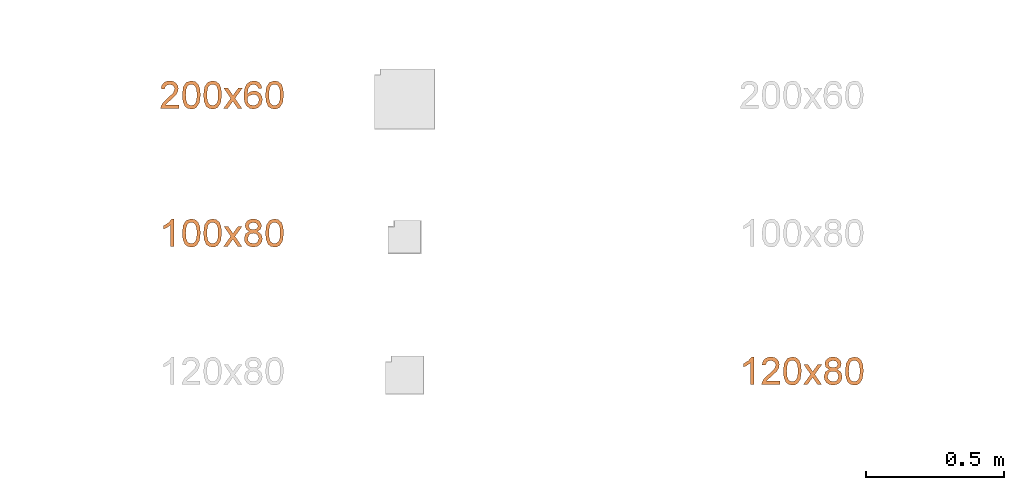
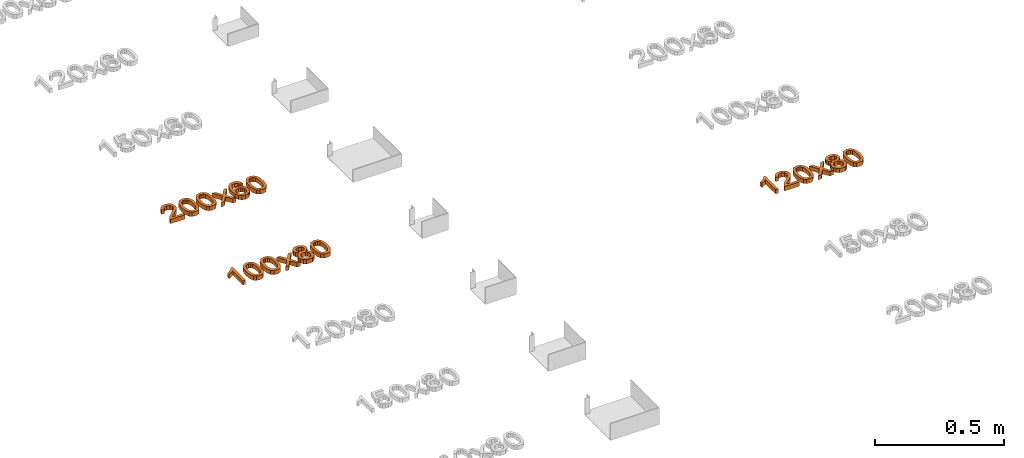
# One storey, part 42 of 71: 3 proxies.
"""IFC2X3 building model written with IfcOpenShell, lengths in millimetres."""

from ifc_helpers import new_model, entity, si_unit, converted_unit, derived_unit, direction, frame, origin, place, context, subcontext, project, spatial, polyline, outline, extrude, element, save


model = new_model("IFC2X3")

# Units and contexts
model_context = context("Model", 3, precision=0.01, world=origin(), true_north=direction((6.12303176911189e-17, 1.0)))
body_context = subcontext(model_context, "Body", "Model", "MODEL_VIEW")
ifc_project = project(units=[si_unit("LENGTHUNIT", "METRE", prefix="MILLI"), si_unit("AREAUNIT", "SQUARE_METRE"), si_unit("VOLUMEUNIT", "CUBIC_METRE"), converted_unit("PLANEANGLEUNIT", "DEGREE", entity("IfcRatioMeasure", 0.0174532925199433), si_unit("PLANEANGLEUNIT", "RADIAN"), dimensions=[0, 0, 0, 0, 0, 0, 0]), si_unit("MASSUNIT", "GRAM", prefix="KILO"), derived_unit("MASSDENSITYUNIT", [(si_unit("MASSUNIT", "GRAM", prefix="KILO"), 1), (si_unit("LENGTHUNIT", "METRE"), -3)]), si_unit("TIMEUNIT", "SECOND"), si_unit("FREQUENCYUNIT", "HERTZ"), si_unit("THERMODYNAMICTEMPERATUREUNIT", "DEGREE_CELSIUS"), derived_unit("THERMALTRANSMITTANCEUNIT", [(si_unit("MASSUNIT", "GRAM", prefix="KILO"), 1), (si_unit("THERMODYNAMICTEMPERATUREUNIT", "KELVIN"), -1), (si_unit("TIMEUNIT", "SECOND"), -3)]), derived_unit("VOLUMETRICFLOWRATEUNIT", [(si_unit("LENGTHUNIT", "METRE"), 3), (si_unit("TIMEUNIT", "SECOND"), -1)]), si_unit("ELECTRICCURRENTUNIT", "AMPERE"), si_unit("ELECTRICVOLTAGEUNIT", "VOLT"), si_unit("POWERUNIT", "WATT"), si_unit("FORCEUNIT", "NEWTON", prefix="KILO"), si_unit("ILLUMINANCEUNIT", "LUX"), si_unit("LUMINOUSFLUXUNIT", "LUMEN"), si_unit("LUMINOUSINTENSITYUNIT", "CANDELA"), derived_unit("USERDEFINED", [(si_unit("MASSUNIT", "GRAM", prefix="KILO"), -1), (si_unit("LENGTHUNIT", "METRE"), -2), (si_unit("TIMEUNIT", "SECOND"), 3), (si_unit("LUMINOUSFLUXUNIT", "LUMEN"), 1)]), derived_unit("LINEARVELOCITYUNIT", [(si_unit("LENGTHUNIT", "METRE"), 1), (si_unit("TIMEUNIT", "SECOND"), -1)]), si_unit("PRESSUREUNIT", "PASCAL"), derived_unit("USERDEFINED", [(si_unit("LENGTHUNIT", "METRE"), -2), (si_unit("MASSUNIT", "GRAM", prefix="KILO"), 1), (si_unit("TIMEUNIT", "SECOND"), -2)])], contexts=[model_context])

# Site, building, storey
site_placement = place(None, origin())
site = spatial("IfcSite", under=ifc_project, at=site_placement, Name="Default", CompositionType="ELEMENT")
building_placement = place(site_placement, origin())
building = spatial("IfcBuilding", under=site, at=building_placement, Name="Наименование здания", CompositionType="ELEMENT")
storey_placement = place(building_placement, origin())
storey = spatial("IfcBuildingStorey", under=building, at=storey_placement, Name="Этаж 01", CompositionType="ELEMENT", Elevation=0.0)

# Proxies
proxy_1_placement = place(storey_placement, origin())
element("IfcBuildingElementProxy", 1, at=proxy_1_placement, inside=storey, Name="Текст модели:100 мм Arial", ObjectType="Текст модели:100 мм Arial", context=body_context, shape_type="SweptSolid", body=[
    extrude(outline(polyline([(-32.3858783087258, -45.1669477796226), (-32.3858783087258, -57.7239865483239), (33.5385752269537, -57.7239865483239), (32.1896745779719, -49.0664969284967), (24.5622545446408, -35.7369059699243), (8.84143061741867, -21.1810416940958), (-12.8390816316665, -0.260818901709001), (-18.2592096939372, 13.9639515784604), (-13.1456499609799, 25.4786580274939), (0.208466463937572, 30.1752848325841), (14.126668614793, 25.5890226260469), (19.4119066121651, 12.90935652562), (31.9689453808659, 14.4789863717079), (28.9247218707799, 26.6252235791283), (22.3426998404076, 35.4973110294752), (12.5662358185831, 40.9235704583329), (-0.0613136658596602, 42.7323236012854), (-12.7808336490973, 40.7212353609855), (-22.5389035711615, 34.6879706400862), (-28.7469122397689, 25.6748617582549), (-30.8162484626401, 14.724241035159), (-28.5844310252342, 2.81712712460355), (-21.1654774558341, -9.49465698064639), (-3.1760478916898, -26.6992716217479), (11.2694517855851, -38.7780637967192), (16.9348345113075, -45.1669477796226), (-32.3858783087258, -45.1669477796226)])), frame((12952.4125507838, -2405.61126925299, 0.0), z_axis=(0.0, 0.0, -1.0), x_axis=(-1.0, 0.0, 0.0)), (0.0, 0.0, -1.0), 20.0),
    extrude(outline(polyline([(-7.02884310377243, -33.3490673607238), (17.532380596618, -33.3490673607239), (35.1984171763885, -27.6137612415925), (43.3439841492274, -18.4876517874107), (47.0516941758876, -5.75150665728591), (46.7162020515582, 4.48638208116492), (43.4465778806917, 13.0955287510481), (27.9444305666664, 25.665911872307), (-0.314338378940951, 32.2325535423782), (-24.0296505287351, 32.3678288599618), (-39.4143020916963, 28.0260881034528), (-49.7293680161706, 18.9002174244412), (-54.4436715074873, 4.63998875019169), (-50.867658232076, -14.1301059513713), (-35.4058547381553, -26.7333390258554), (-7.02884310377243, -33.3490673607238)]), holes=[polyline([(-5.77428774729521, -20.8548320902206), (-25.0157644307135, -17.3562860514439), (-36.7257089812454, -11.5717922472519), (-41.0962588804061, -4.77599682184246), (-41.9669219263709, 3.2146479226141), (-39.2244253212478, 11.2791292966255), (-32.865406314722, 17.2229259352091), (-20.969837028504, 20.2947501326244), (-1.61768958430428, 19.7433141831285), (17.8514140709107, 16.2707701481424), (28.7803640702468, 10.714159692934), (33.5546988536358, 3.61815959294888), (34.5599568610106, -4.47255337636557), (31.9421230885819, -12.1923199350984), (25.8471825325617, -18.1754808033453), (14.0250679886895, -21.402747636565), (-5.77428774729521, -20.8548320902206)])]), frame((13031.2470054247, -2417.51207886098, 0.0), z_axis=(0.0, 0.0, 1.0), x_axis=(0.1018515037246, -0.994799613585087, 0.0)), (0.0, 0.0, 1.0), 20.0),
    extrude(outline(polyline([(-7.02884310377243, -33.3490673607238), (17.532380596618, -33.3490673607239), (35.1984171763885, -27.6137612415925), (43.3439841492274, -18.4876517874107), (47.0516941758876, -5.75150665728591), (46.7162020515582, 4.48638208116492), (43.4465778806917, 13.0955287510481), (27.9444305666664, 25.665911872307), (-0.314338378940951, 32.2325535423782), (-24.0296505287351, 32.3678288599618), (-39.4143020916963, 28.0260881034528), (-49.7293680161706, 18.9002174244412), (-54.4436715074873, 4.63998875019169), (-50.867658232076, -14.1301059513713), (-35.4058547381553, -26.7333390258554), (-7.02884310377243, -33.3490673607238)]), holes=[polyline([(-5.77428774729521, -20.8548320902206), (-25.0157644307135, -17.3562860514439), (-36.7257089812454, -11.5717922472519), (-41.0962588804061, -4.77599682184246), (-41.9669219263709, 3.2146479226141), (-39.2244253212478, 11.2791292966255), (-32.865406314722, 17.2229259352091), (-20.969837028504, 20.2947501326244), (-1.61768958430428, 19.7433141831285), (17.8514140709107, 16.2707701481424), (28.7803640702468, 10.714159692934), (33.5546988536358, 3.61815959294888), (34.5599568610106, -4.47255337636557), (31.9421230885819, -12.1923199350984), (25.8471825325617, -18.1754808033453), (14.0250679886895, -21.402747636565), (-5.77428774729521, -20.8548320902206)])]), frame((13108.158867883, -2417.51207886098, 0.0), z_axis=(0.0, 0.0, 1.0), x_axis=(0.1018515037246, -0.994799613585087, 0.0)), (0.0, 0.0, 1.0), 20.0),
    extrude(outline(polyline([(-34.5302215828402, -38.4265006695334), (-19.4225343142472, -38.4265006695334), (-0.341721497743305, -12.0616243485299), (2.478707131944, -16.1328517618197), (17.8561745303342, -38.4265006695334), (32.9638617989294, -38.4265006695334), (7.40832586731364, -1.34399555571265), (33.9448804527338, 35.3461020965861), (18.8371931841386, 35.3461020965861), (4.95577923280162, 16.1671874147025), (0.0261604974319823, 9.34910777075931), (-5.66374769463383, 17.6877663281), (-17.8529044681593, 35.3461020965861), (-32.9605917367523, 35.3461020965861), (-7.69936140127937, -1.34399555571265), (-34.5302215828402, -38.4265006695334)])), frame((13181.0005248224, -2424.90875513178, 0.0)), (0.0, 0.0, 1.0), 20.0),
    extrude(outline(polyline([(6.79275401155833, -32.5027761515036), (18.3659045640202, -32.5027761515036), (28.1525204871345, -28.8011371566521), (35.6312934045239, -21.7178704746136), (40.280914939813, -11.5729874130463), (41.4130789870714, 3.23667074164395), (36.1391243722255, 16.3729018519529), (21.8599739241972, 28.8803269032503), (-1.50836821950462, 38.2054593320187), (-23.6059131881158, 41.7609274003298), (-39.9814227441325, 38.5965283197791), (-51.1650797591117, 29.9216784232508), (-57.687067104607, 16.9457940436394), (-57.9805556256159, -0.04948790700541), (-49.2081886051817, -14.3141019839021), (-33.6167855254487, -22.9350568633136), (-20.6265742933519, -24.2502330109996), (-8.97800352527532, -20.6254922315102), (0.0919027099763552, -13.0350962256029), (5.34612034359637, -2.45330669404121), (5.85483161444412, 11.6447254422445), (-0.84333979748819, 24.9910631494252), (19.7707676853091, 15.5765036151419), (28.4840991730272, 4.26766164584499), (28.3893512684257, -7.46374532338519), (19.9956250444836, -18.1936336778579), (8.63303585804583, -19.9825396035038), (6.79275401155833, -32.5027761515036)]), holes=[polyline([(-18.758671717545, 29.9549594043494), (-11.6328110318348, 26.3613362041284), (-6.94154076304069, 20.2038317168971), (-5.85783236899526, 4.13761066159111), (-9.48331864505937, -3.95286412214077), (-15.1077394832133, -9.26901644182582), (-22.3091633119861, -11.5969098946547), (-30.6656585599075, -10.7226080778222), (-38.6094491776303, -7.06141592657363), (-43.8637090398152, -1.22509865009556), (-46.1835287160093, 6.17768396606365), (-45.32399877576, 14.538272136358), (-39.6901171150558, 24.722197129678), (-30.0168134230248, 30.0585493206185), (-18.758671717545, 29.9549594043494)])]), frame((13256.6584546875, -2404.78751753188, 0.0), z_axis=(0.0, 0.0, 1.0), x_axis=(-0.267015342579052, 0.963692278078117, 0.0)), (0.0, 0.0, 1.0), 20.0),
    extrude(outline(polyline([(-7.02884310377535, -33.3490673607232), (17.5323805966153, -33.3490673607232), (35.1984171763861, -27.6137612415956), (43.3439841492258, -18.4876517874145), (47.0516941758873, -5.75150665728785), (46.7162020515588, 4.486382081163), (43.446577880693, 13.0955287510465), (27.9444305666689, 25.6659118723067), (-0.314338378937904, 32.2325535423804), (-24.0296505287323, 32.3678288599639), (-39.4143020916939, 28.0260881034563), (-49.729368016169, 18.9002174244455), (-54.4436715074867, 4.63998875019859), (-50.8676582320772, -14.1301059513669), (-35.4058547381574, -26.7333390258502), (-7.02884310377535, -33.3490673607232)]), holes=[polyline([(-5.77428774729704, -20.8548320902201), (-25.0157644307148, -17.3562860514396), (-36.7257089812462, -11.5717922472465), (-41.0962588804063, -4.77599682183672), (-41.9669219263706, 3.21464792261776), (-39.2244253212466, 11.2791292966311), (-32.8654063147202, 17.2229259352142), (-20.9698370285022, 20.2947501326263), (-1.61768958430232, 19.7433141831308), (17.8514140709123, 16.270770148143), (28.7803640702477, 10.7141596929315), (33.5546988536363, 3.61815959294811), (34.5599568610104, -4.47255337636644), (31.9421230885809, -12.1923199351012), (25.8471825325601, -18.1754808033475), (14.0250679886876, -21.4027476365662), (-5.77428774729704, -20.8548320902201)])]), frame((13332.6159358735, -2417.51207886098, 0.0), z_axis=(0.0, 0.0, 1.0), x_axis=(0.101851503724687, -0.994799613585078, 0.0)), (0.0, 0.0, 1.0), 20.0),
])
proxy_2_placement = place(storey_placement, origin())
element("IfcBuildingElementProxy", 2, at=proxy_2_placement, inside=storey, Name="Текст модели:100 мм Arial", ObjectType="Текст модели:100 мм Arial", context=body_context, shape_type="SweptSolid", body=[
    extrude(outline(polyline([(-63.8793021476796, -16.918484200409), (36.5770080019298, -16.918484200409), (36.5770080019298, -8.825080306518), (23.2106288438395, 2.34626961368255), (11.4629304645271, 20.7526321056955), (-0.407395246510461, 20.7526321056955), (5.93243780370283, 7.53340574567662), (14.4059864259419, -4.36144543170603), (-63.8793021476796, -4.36144543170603), (-63.8793021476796, -16.918484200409)])), frame((12950.6140165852, -2899.45595365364, 0.0), z_axis=(0.0, 0.0, 1.0), x_axis=(0.0, 1.0, 0.0)), (0.0, 0.0, 1.0), 20.0),
    extrude(outline(polyline([(-7.02884310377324, -33.3490673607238), (17.5323805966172, -33.3490673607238), (35.1984171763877, -27.6137612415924), (43.3439841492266, -18.4876517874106), (47.0516941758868, -5.75150665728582), (46.7162020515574, 4.486382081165), (43.4465778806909, 13.0955287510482), (27.9444305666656, 25.6659118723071), (-0.314338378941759, 32.2325535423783), (-24.0296505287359, 32.3678288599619), (-39.4143020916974, 28.0260881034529), (-49.7293680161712, 18.9002174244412), (-54.4436715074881, 4.63998875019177), (-50.8676582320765, -14.1301059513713), (-35.4058547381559, -26.7333390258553), (-7.02884310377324, -33.3490673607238)]), holes=[polyline([(-5.77428774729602, -20.8548320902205), (-25.015764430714, -17.3562860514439), (-36.7257089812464, -11.5717922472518), (-41.0962588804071, -4.77599682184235), (-41.9669219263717, 3.21464792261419), (-39.2244253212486, 11.2791292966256), (-32.8654063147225, 17.2229259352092), (-20.9698370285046, 20.2947501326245), (-1.61768958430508, 19.7433141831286), (17.8514140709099, 16.2707701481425), (28.780364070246, 10.7141596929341), (33.554698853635, 3.61815959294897), (34.5599568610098, -4.47255337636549), (31.9421230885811, -12.1923199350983), (25.8471825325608, -18.1754808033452), (14.0250679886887, -21.4027476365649), (-5.77428774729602, -20.8548320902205)])]), frame((13031.2470054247, -2917.51207886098, 0.0), z_axis=(0.0, 0.0, 1.0), x_axis=(0.1018515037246, -0.994799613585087, 0.0)), (0.0, 0.0, 1.0), 20.0),
    extrude(outline(polyline([(-7.02884310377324, -33.3490673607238), (17.5323805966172, -33.3490673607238), (35.1984171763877, -27.6137612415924), (43.3439841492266, -18.4876517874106), (47.0516941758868, -5.75150665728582), (46.7162020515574, 4.486382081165), (43.4465778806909, 13.0955287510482), (27.9444305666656, 25.6659118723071), (-0.314338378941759, 32.2325535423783), (-24.0296505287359, 32.3678288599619), (-39.4143020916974, 28.0260881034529), (-49.7293680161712, 18.9002174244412), (-54.4436715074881, 4.63998875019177), (-50.8676582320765, -14.1301059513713), (-35.4058547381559, -26.7333390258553), (-7.02884310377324, -33.3490673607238)]), holes=[polyline([(-5.77428774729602, -20.8548320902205), (-25.015764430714, -17.3562860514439), (-36.7257089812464, -11.5717922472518), (-41.0962588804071, -4.77599682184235), (-41.9669219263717, 3.21464792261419), (-39.2244253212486, 11.2791292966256), (-32.8654063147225, 17.2229259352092), (-20.9698370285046, 20.2947501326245), (-1.61768958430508, 19.7433141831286), (17.8514140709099, 16.2707701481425), (28.780364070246, 10.7141596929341), (33.554698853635, 3.61815959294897), (34.5599568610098, -4.47255337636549), (31.9421230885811, -12.1923199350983), (25.8471825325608, -18.1754808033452), (14.0250679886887, -21.4027476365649), (-5.77428774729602, -20.8548320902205)])]), frame((13108.158867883, -2917.51207886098, 0.0), z_axis=(0.0, 0.0, 1.0), x_axis=(0.1018515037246, -0.994799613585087, 0.0)), (0.0, 0.0, 1.0), 20.0),
    extrude(outline(polyline([(-34.5302215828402, -38.4265006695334), (-19.4225343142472, -38.4265006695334), (-0.341721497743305, -12.0616243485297), (2.478707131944, -16.1328517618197), (17.8561745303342, -38.4265006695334), (32.9638617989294, -38.4265006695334), (7.40832586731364, -1.34399555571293), (33.9448804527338, 35.3461020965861), (18.8371931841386, 35.3461020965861), (4.95577923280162, 16.1671874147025), (0.0261604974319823, 9.34910777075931), (-5.66374769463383, 17.6877663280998), (-17.8529044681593, 35.3461020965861), (-32.9605917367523, 35.3461020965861), (-7.69936140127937, -1.34399555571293), (-34.5302215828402, -38.4265006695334)])), frame((13181.0005248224, -2924.90875513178, 0.0)), (0.0, 0.0, 1.0), 20.0),
    extrude(outline(polyline([(10.1224324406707, -11.2212127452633), (26.447773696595, -11.2212127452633), (39.6861381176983, -0.0909413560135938), (44.6322314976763, 11.3078156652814), (44.5856416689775, 23.4168603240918), (39.607383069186, 34.8346290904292), (29.758470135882, 44.1595584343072), (17.4236057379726, 49.7956565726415), (4.98749274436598, 50.1469317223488), (-6.20047708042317, 45.7236060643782), (-14.7909119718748, 37.0359017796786), (-20.078166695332, 21.0056847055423), (-14.5070621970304, 5.3769249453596), (-28.0684052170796, 5.15563707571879), (-37.7221714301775, -2.6084501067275), (-41.5236361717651, -11.9357006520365), (-41.0036870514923, -22.2232653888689), (-36.191615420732, -32.1870777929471), (-27.116712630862, -40.5430713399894), (-16.0503295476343, -45.8123091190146), (-5.18246445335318, -46.5706787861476), (4.384533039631, -43.2361071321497), (11.5483133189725, -36.226520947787), (15.2516244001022, -24.0826582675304), (10.1224324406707, -11.2212127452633)]), holes=[polyline([(29.0262968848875, 6.56051660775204), (17.1806533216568, -1.51571690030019), (9.68494123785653, -1.27757268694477), (1.95268767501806, 2.32885586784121), (-4.46267094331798, 8.27886886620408), (-7.64161156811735, 15.3010558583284), (-4.59707955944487, 29.6929468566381), (7.31333657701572, 37.7994665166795), (14.8367372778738, 37.4872096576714), (22.6595729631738, 33.8012523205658), (30.37303584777, 25.5864099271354), (32.5711030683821, 15.5727469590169), (29.0262968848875, 6.56051660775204)]), polyline([(1.34077476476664, -28.9039041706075), (-7.53771017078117, -33.9815875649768), (-20.2415350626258, -30.0339976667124), (-28.5905650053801, -19.6902819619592), (-26.9800933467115, -9.1378791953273), (-18.1108932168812, -3.87648928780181), (-5.45128168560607, -7.82385811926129), (3.1592702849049, -18.2403048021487), (1.34077476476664, -28.9039041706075)])]), frame((13254.7737407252, -2911.65422231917, 0.0), z_axis=(0.0, 0.0, 1.0), x_axis=(-0.829266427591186, -0.558853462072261, 0.0)), (0.0, 0.0, 1.0), 20.0),
    extrude(outline(polyline([(-7.02884310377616, -33.3490673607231), (17.5323805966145, -33.3490673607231), (35.1984171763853, -27.6137612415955), (43.343984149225, -18.4876517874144), (47.0516941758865, -5.75150665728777), (46.716202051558, 4.48638208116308), (43.4465778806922, 13.0955287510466), (27.9444305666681, 25.6659118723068), (-0.314338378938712, 32.2325535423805), (-24.0296505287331, 32.367828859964), (-39.4143020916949, 28.0260881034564), (-49.7293680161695, 18.9002174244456), (-54.4436715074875, 4.63998875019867), (-50.8676582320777, -14.1301059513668), (-35.405854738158, -26.7333390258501), (-7.02884310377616, -33.3490673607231)]), holes=[polyline([(-5.77428774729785, -20.85483209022), (-25.0157644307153, -17.3562860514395), (-36.7257089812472, -11.5717922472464), (-41.0962588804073, -4.77599682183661), (-41.9669219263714, 3.21464792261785), (-39.2244253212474, 11.2791292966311), (-32.8654063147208, 17.2229259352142), (-20.9698370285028, 20.2947501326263), (-1.61768958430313, 19.7433141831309), (17.8514140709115, 16.2707701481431), (28.7803640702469, 10.7141596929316), (33.5546988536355, 3.61815959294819), (34.5599568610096, -4.47255337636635), (31.9421230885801, -12.1923199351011), (25.8471825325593, -18.1754808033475), (14.0250679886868, -21.4027476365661), (-5.77428774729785, -20.85483209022)])]), frame((13332.6159358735, -2917.51207886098, 0.0), z_axis=(0.0, 0.0, 1.0), x_axis=(0.101851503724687, -0.994799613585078, 0.0)), (0.0, 0.0, 1.0), 20.0),
])
proxy_3_placement = place(storey_placement, origin())
element("IfcBuildingElementProxy", 3, at=proxy_3_placement, inside=storey, Name="Текст модели:100 мм Arial", ObjectType="Текст модели:100 мм Arial", context=body_context, shape_type="SweptSolid", body=[
    extrude(outline(polyline([(-63.8793021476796, -16.9184842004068), (36.5770080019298, -16.9184842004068), (36.5770080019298, -8.82508030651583), (23.2106288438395, 2.34626961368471), (11.4629304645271, 20.7526321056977), (-0.407395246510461, 20.7526321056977), (5.93243780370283, 7.53340574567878), (14.4059864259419, -4.36144543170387), (-63.8793021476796, -4.36144543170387), (-63.8793021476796, -16.9184842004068)])), frame((15050.6140165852, -3399.45595365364, 0.0), z_axis=(0.0, 0.0, 1.0), x_axis=(0.0, 1.0, 0.0)), (0.0, 0.0, 1.0), 20.0),
    extrude(outline(polyline([(-32.385878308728, -45.1669477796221), (-32.385878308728, -57.7239865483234), (33.5385752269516, -57.7239865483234), (32.1896745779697, -49.0664969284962), (24.5622545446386, -35.7369059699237), (8.84143061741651, -21.1810416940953), (-12.8390816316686, -0.26081890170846), (-18.2592096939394, 13.9639515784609), (-13.1456499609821, 25.4786580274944), (0.208466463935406, 30.1752848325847), (14.1266686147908, 25.5890226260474), (19.4119066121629, 12.9093565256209), (31.9689453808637, 14.4789863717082), (28.9247218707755, 26.6252235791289), (22.3426998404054, 35.4973110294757), (12.5662358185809, 40.9235704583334), (-0.0613136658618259, 42.732323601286), (-12.7808336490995, 40.721235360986), (-22.5389035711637, 34.6879706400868), (-28.746912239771, 25.6748617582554), (-30.8162484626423, 14.7242410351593), (-28.5844310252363, 2.81712712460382), (-21.1654774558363, -9.49465698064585), (-3.17604789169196, -26.6992716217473), (11.2694517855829, -38.7780637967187), (16.9348345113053, -45.1669477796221), (-32.385878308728, -45.1669477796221)])), frame((15129.3244132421, -3405.611269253, 0.0), z_axis=(0.0, 0.0, -1.0), x_axis=(-1.0, 0.0, 0.0)), (0.0, 0.0, -1.0), 20.0),
    extrude(outline(polyline([(-7.02884310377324, -33.3490673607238), (17.5323805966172, -33.3490673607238), (35.1984171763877, -27.6137612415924), (43.3439841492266, -18.4876517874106), (47.0516941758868, -5.75150665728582), (46.7162020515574, 4.486382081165), (43.4465778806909, 13.0955287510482), (27.9444305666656, 25.6659118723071), (-0.314338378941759, 32.2325535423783), (-24.0296505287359, 32.3678288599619), (-39.4143020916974, 28.0260881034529), (-49.7293680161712, 18.9002174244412), (-54.4436715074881, 4.63998875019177), (-50.8676582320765, -14.1301059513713), (-35.4058547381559, -26.7333390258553), (-7.02884310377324, -33.3490673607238)]), holes=[polyline([(-5.77428774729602, -20.8548320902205), (-25.015764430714, -17.3562860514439), (-36.7257089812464, -11.5717922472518), (-41.0962588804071, -4.77599682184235), (-41.9669219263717, 3.21464792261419), (-39.2244253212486, 11.2791292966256), (-32.8654063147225, 17.2229259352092), (-20.9698370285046, 20.2947501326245), (-1.61768958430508, 19.7433141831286), (17.8514140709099, 16.2707701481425), (28.780364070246, 10.7141596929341), (33.554698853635, 3.61815959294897), (34.5599568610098, -4.47255337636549), (31.9421230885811, -12.1923199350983), (25.8471825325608, -18.1754808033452), (14.0250679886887, -21.4027476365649), (-5.77428774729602, -20.8548320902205)])]), frame((15208.158867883, -3417.51207886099, 0.0), z_axis=(0.0, 0.0, 1.0), x_axis=(0.1018515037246, -0.994799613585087, 0.0)), (0.0, 0.0, 1.0), 20.0),
    extrude(outline(polyline([(-34.5302215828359, -38.4265006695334), (-19.4225343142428, -38.4265006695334), (-0.341721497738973, -12.0616243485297), (2.47870713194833, -16.1328517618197), (17.8561745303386, -38.4265006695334), (32.9638617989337, -38.4265006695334), (7.40832586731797, -1.34399555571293), (33.9448804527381, 35.3461020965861), (18.837193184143, 35.3461020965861), (4.95577923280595, 16.1671874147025), (0.0261604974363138, 9.34910777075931), (-5.6637476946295, 17.6877663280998), (-17.852904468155, 35.3461020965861), (-32.960591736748, 35.3461020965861), (-7.69936140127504, -1.34399555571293), (-34.5302215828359, -38.4265006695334)])), frame((15281.0005248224, -3424.90875513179, 0.0)), (0.0, 0.0, 1.0), 20.0),
    extrude(outline(polyline([(10.1224324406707, -11.2212127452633), (26.447773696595, -11.2212127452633), (39.6861381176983, -0.0909413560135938), (44.6322314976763, 11.3078156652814), (44.5856416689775, 23.4168603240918), (39.607383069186, 34.8346290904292), (29.758470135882, 44.1595584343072), (17.4236057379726, 49.7956565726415), (4.98749274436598, 50.1469317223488), (-6.20047708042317, 45.7236060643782), (-14.7909119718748, 37.0359017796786), (-20.078166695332, 21.0056847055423), (-14.5070621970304, 5.3769249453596), (-28.0684052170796, 5.15563707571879), (-37.7221714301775, -2.6084501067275), (-41.5236361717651, -11.9357006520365), (-41.0036870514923, -22.2232653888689), (-36.191615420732, -32.1870777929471), (-27.116712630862, -40.5430713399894), (-16.0503295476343, -45.8123091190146), (-5.18246445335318, -46.5706787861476), (4.384533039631, -43.2361071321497), (11.5483133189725, -36.226520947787), (15.2516244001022, -24.0826582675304), (10.1224324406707, -11.2212127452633)]), holes=[polyline([(1.34077476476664, -28.9039041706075), (-7.53771017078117, -33.9815875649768), (-20.2415350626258, -30.0339976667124), (-28.5905650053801, -19.6902819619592), (-26.9800933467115, -9.1378791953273), (-18.1108932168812, -3.87648928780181), (-5.45128168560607, -7.82385811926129), (3.1592702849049, -18.2403048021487), (1.34077476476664, -28.9039041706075)]), polyline([(29.0262968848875, 6.56051660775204), (17.1806533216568, -1.51571690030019), (9.68494123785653, -1.27757268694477), (1.95268767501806, 2.32885586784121), (-4.46267094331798, 8.27886886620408), (-7.64161156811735, 15.3010558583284), (-4.59707955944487, 29.6929468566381), (7.31333657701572, 37.7994665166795), (14.8367372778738, 37.4872096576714), (22.6595729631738, 33.8012523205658), (30.37303584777, 25.5864099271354), (32.5711030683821, 15.5727469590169), (29.0262968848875, 6.56051660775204)])]), frame((15354.7737407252, -3411.65422231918, 0.0), z_axis=(0.0, 0.0, 1.0), x_axis=(-0.829266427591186, -0.558853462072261, 0.0)), (0.0, 0.0, 1.0), 20.0),
    extrude(outline(polyline([(-7.02884310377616, -33.3490673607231), (17.5323805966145, -33.3490673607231), (35.1984171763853, -27.6137612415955), (43.343984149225, -18.4876517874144), (47.0516941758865, -5.75150665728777), (46.716202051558, 4.48638208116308), (43.4465778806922, 13.0955287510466), (27.9444305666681, 25.6659118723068), (-0.314338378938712, 32.2325535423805), (-24.0296505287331, 32.367828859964), (-39.4143020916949, 28.0260881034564), (-49.7293680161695, 18.9002174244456), (-54.4436715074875, 4.63998875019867), (-50.8676582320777, -14.1301059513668), (-35.405854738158, -26.7333390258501), (-7.02884310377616, -33.3490673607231)]), holes=[polyline([(-5.77428774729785, -20.85483209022), (-25.0157644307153, -17.3562860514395), (-36.7257089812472, -11.5717922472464), (-41.0962588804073, -4.77599682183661), (-41.9669219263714, 3.21464792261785), (-39.2244253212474, 11.2791292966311), (-32.8654063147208, 17.2229259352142), (-20.9698370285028, 20.2947501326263), (-1.61768958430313, 19.7433141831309), (17.8514140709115, 16.2707701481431), (28.7803640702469, 10.7141596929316), (33.5546988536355, 3.61815959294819), (34.5599568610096, -4.47255337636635), (31.9421230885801, -12.1923199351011), (25.8471825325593, -18.1754808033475), (14.0250679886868, -21.4027476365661), (-5.77428774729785, -20.85483209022)])]), frame((15432.6159358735, -3417.51207886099, 0.0), z_axis=(0.0, 0.0, 1.0), x_axis=(0.101851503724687, -0.994799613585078, 0.0)), (0.0, 0.0, 1.0), 20.0),
])

save(model, "model.ifc")
